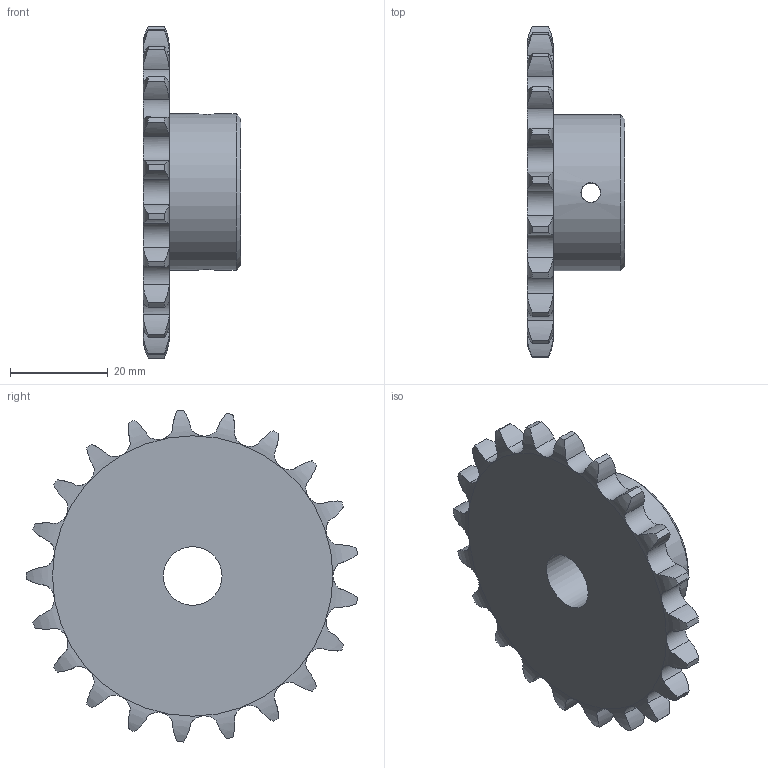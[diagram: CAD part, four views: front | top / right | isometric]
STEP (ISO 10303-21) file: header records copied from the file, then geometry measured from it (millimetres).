
FILE_DESCRIPTION(/* description */ ('CHAIN SPROCKET'),/* implementation_level */ '2;1');
FILE_NAME(/* name */ '\\carryline.intra\privat\users\mathias\Desktop\Tillfälliga filer\100-1420.stp',/* time_stamp */ '2018-11-20T10:37:21+01:00',/* author */ (''),/* organization */ ('CARRYLINE'),/* preprocessor_version */ 'ST-DEVELOPER v17',/* originating_system */ 'Autodesk Inventor 2018',/* authorisation */ ' ');
FILE_SCHEMA (('AUTOMOTIVE_DESIGN { 1 0 10303 214 3 1 1 }'));
Length unit declared in the file: millimetre
Products named in the file (1): 100-1420
Bounding box: 20.04 x 67.71 x 67.89 mm (x, y, z)
Volume: 24894.6 mm3; surface area: 9678.7 mm2
Topology: 1 solids, 1 shells, 94 faces, 286 edges, 193 vertices
Faces by surface type: cylinder 88, plane 3, torus 2, cone 1
Full cylindrical faces by diameter (mm): 4 x2, 12 x1, 32 x1
Entity records: 4425 total; most frequent: CARTESIAN_POINT 1915, ORIENTED_EDGE 572, DIRECTION 395, EDGE_CURVE 286, VERTEX_POINT 193, AXIS2_PLACEMENT_3D 152, B_SPLINE_CURVE_WITH_KNOTS 138, EDGE_LOOP 99
